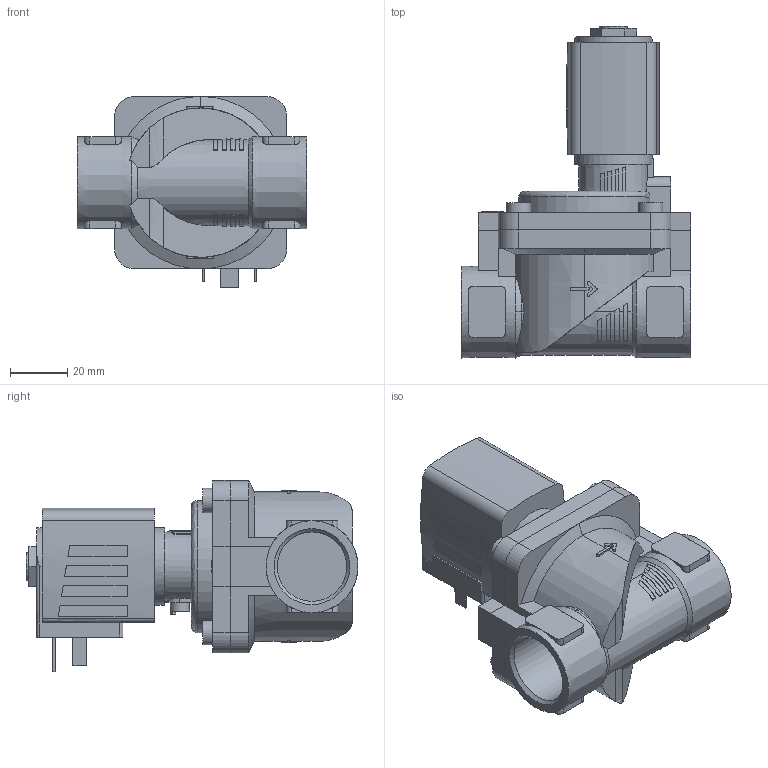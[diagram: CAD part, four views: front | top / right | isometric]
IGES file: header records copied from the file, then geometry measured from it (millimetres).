
Start section: Data from Parasolid IGES Translator 26.0.171, Copyright(c) 2006 Siemens PLM Software. All Rights Reserved.
Global section: file name: 6281-248732-2_2-Way_Solenoid_Valve__Servo-assisted__General_Purpose.igs; native system: By Siemens PLM Incorporated; preprocessor: XPlus GENERIC/IGES 26.0.171; author: Noname; organization: Noname; date: 20240520.132557; units: millimetre
Bounding box: 80 x 115.5 x 66.5 mm (x, y, z)
Surface area: 42384.3 mm2 (no closed solid volume)
Topology: 0 solids, 0 shells, 371 faces, 1950 edges, 1944 vertices
Faces by surface type: extrusion 243, revolution 128
